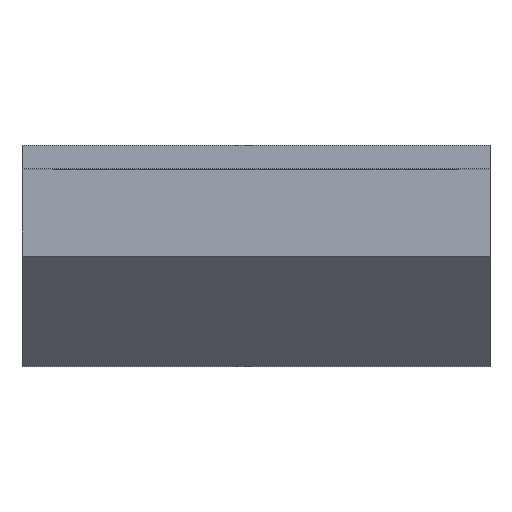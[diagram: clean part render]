
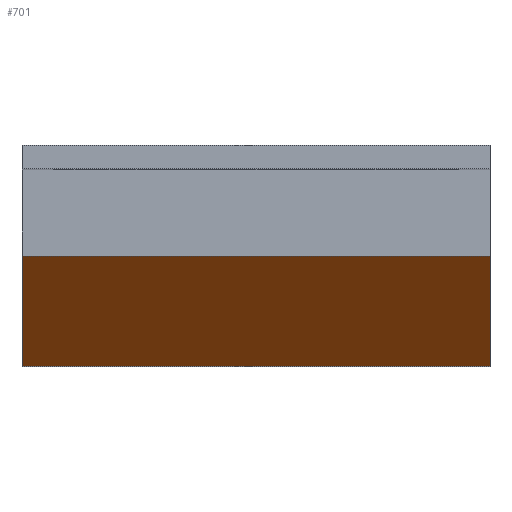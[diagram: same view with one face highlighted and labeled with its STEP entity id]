
A CAD part, top view. The second image highlights one B-rep face of the part: STEP entity #701.
In plain terms, the highlighted planar face has unit normal (0, -0.707, 0.707).
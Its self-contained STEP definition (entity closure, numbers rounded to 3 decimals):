
#484 = VERTEX_POINT('',#485);
#485 = CARTESIAN_POINT('',(0.,0.,5.35)
  );
#492 = PLANE('',#493);
#493 = AXIS2_PLACEMENT_3D('',#494,#495,#496);
#494 = CARTESIAN_POINT('',(0.,0.,0.));
#495 = DIRECTION('',(1.,0.,0.));
#496 = DIRECTION('',(0.,0.,1.));
#504 = PLANE('',#505);
#505 = AXIS2_PLACEMENT_3D('',#506,#507,#508);
#506 = CARTESIAN_POINT('',(0.,0.,0.));
#507 = DIRECTION('',(0.,1.,0.));
#508 = DIRECTION('',(0.,0.,1.));
#573 = VERTEX_POINT('',#574);
#574 = CARTESIAN_POINT('',(0.,2.35,7.7));
#588 = PLANE('',#589);
#589 = AXIS2_PLACEMENT_3D('',#590,#591,#592);
#590 = CARTESIAN_POINT('',(0.,0.,7.7));
#591 = DIRECTION('',(0.,0.,1.));
#592 = DIRECTION('',(1.,0.,0.));
#600 = EDGE_CURVE('',#484,#573,#601,.T.);
#601 = SURFACE_CURVE('',#602,(#606,#613),.PCURVE_S1.);
#602 = LINE('',#603,#604);
#603 = CARTESIAN_POINT('',(0.,-0.75,4.6));
#604 = VECTOR('',#605,1.);
#605 = DIRECTION('',(-0.,0.707,0.707));
#606 = PCURVE('',#492,#607);
#607 = DEFINITIONAL_REPRESENTATION('',(#608),#612);
#608 = LINE('',#609,#610);
#609 = CARTESIAN_POINT('',(4.6,0.75));
#610 = VECTOR('',#611,1.);
#611 = DIRECTION('',(0.707,-0.707));
#612 = ( GEOMETRIC_REPRESENTATION_CONTEXT(2) 
PARAMETRIC_REPRESENTATION_CONTEXT() REPRESENTATION_CONTEXT('2D SPACE',''
  ) );
#613 = PCURVE('',#614,#619);
#614 = PLANE('',#615);
#615 = AXIS2_PLACEMENT_3D('',#616,#617,#618);
#616 = CARTESIAN_POINT('',(0.,1.175,6.525));
#617 = DIRECTION('',(0.,0.707,-0.707)
  );
#618 = DIRECTION('',(-1.,0.,0.));
#619 = DEFINITIONAL_REPRESENTATION('',(#620),#624);
#620 = LINE('',#621,#622);
#621 = CARTESIAN_POINT('',(0.,-2.722));
#622 = VECTOR('',#623,1.);
#623 = DIRECTION('',(-0.,1.));
#624 = ( GEOMETRIC_REPRESENTATION_CONTEXT(2) 
PARAMETRIC_REPRESENTATION_CONTEXT() REPRESENTATION_CONTEXT('2D SPACE',''
  ) );
#632 = VERTEX_POINT('',#633);
#633 = CARTESIAN_POINT('',(10.,0.,5.35));
#647 = PLANE('',#648);
#648 = AXIS2_PLACEMENT_3D('',#649,#650,#651);
#649 = CARTESIAN_POINT('',(10.,0.,0.));
#650 = DIRECTION('',(1.,0.,0.));
#651 = DIRECTION('',(0.,0.,1.));
#681 = EDGE_CURVE('',#484,#632,#682,.T.);
#682 = SURFACE_CURVE('',#683,(#687,#694),.PCURVE_S1.);
#683 = LINE('',#684,#685);
#684 = CARTESIAN_POINT('',(0.,0.,5.35));
#685 = VECTOR('',#686,1.);
#686 = DIRECTION('',(1.,0.,0.));
#687 = PCURVE('',#504,#688);
#688 = DEFINITIONAL_REPRESENTATION('',(#689),#693);
#689 = LINE('',#690,#691);
#690 = CARTESIAN_POINT('',(5.35,0.));
#691 = VECTOR('',#692,1.);
#692 = DIRECTION('',(0.,1.));
#693 = ( GEOMETRIC_REPRESENTATION_CONTEXT(2) 
PARAMETRIC_REPRESENTATION_CONTEXT() REPRESENTATION_CONTEXT('2D SPACE',''
  ) );
#694 = PCURVE('',#614,#695);
#695 = DEFINITIONAL_REPRESENTATION('',(#696),#700);
#696 = LINE('',#697,#698);
#697 = CARTESIAN_POINT('',(0.,-1.662));
#698 = VECTOR('',#699,1.);
#699 = DIRECTION('',(-1.,0.));
#700 = ( GEOMETRIC_REPRESENTATION_CONTEXT(2) 
PARAMETRIC_REPRESENTATION_CONTEXT() REPRESENTATION_CONTEXT('2D SPACE',''
  ) );
#701 = ADVANCED_FACE('',(#702),#614,.F.);
#702 = FACE_BOUND('',#703,.T.);
#703 = EDGE_LOOP('',(#704,#705,#706,#729));
#704 = ORIENTED_EDGE('',*,*,#600,.F.);
#705 = ORIENTED_EDGE('',*,*,#681,.T.);
#706 = ORIENTED_EDGE('',*,*,#707,.T.);
#707 = EDGE_CURVE('',#632,#708,#710,.T.);
#708 = VERTEX_POINT('',#709);
#709 = CARTESIAN_POINT('',(10.,2.35,7.7));
#710 = SURFACE_CURVE('',#711,(#715,#722),.PCURVE_S1.);
#711 = LINE('',#712,#713);
#712 = CARTESIAN_POINT('',(10.,-0.75,4.6));
#713 = VECTOR('',#714,1.);
#714 = DIRECTION('',(-0.,0.707,0.707));
#715 = PCURVE('',#614,#716);
#716 = DEFINITIONAL_REPRESENTATION('',(#717),#721);
#717 = LINE('',#718,#719);
#718 = CARTESIAN_POINT('',(-10.,-2.722));
#719 = VECTOR('',#720,1.);
#720 = DIRECTION('',(-0.,1.));
#721 = ( GEOMETRIC_REPRESENTATION_CONTEXT(2) 
PARAMETRIC_REPRESENTATION_CONTEXT() REPRESENTATION_CONTEXT('2D SPACE',''
  ) );
#722 = PCURVE('',#647,#723);
#723 = DEFINITIONAL_REPRESENTATION('',(#724),#728);
#724 = LINE('',#725,#726);
#725 = CARTESIAN_POINT('',(4.6,0.75));
#726 = VECTOR('',#727,1.);
#727 = DIRECTION('',(0.707,-0.707));
#728 = ( GEOMETRIC_REPRESENTATION_CONTEXT(2) 
PARAMETRIC_REPRESENTATION_CONTEXT() REPRESENTATION_CONTEXT('2D SPACE',''
  ) );
#729 = ORIENTED_EDGE('',*,*,#730,.F.);
#730 = EDGE_CURVE('',#573,#708,#731,.T.);
#731 = SURFACE_CURVE('',#732,(#736,#743),.PCURVE_S1.);
#732 = LINE('',#733,#734);
#733 = CARTESIAN_POINT('',(0.,2.35,7.7));
#734 = VECTOR('',#735,1.);
#735 = DIRECTION('',(1.,0.,0.));
#736 = PCURVE('',#614,#737);
#737 = DEFINITIONAL_REPRESENTATION('',(#738),#742);
#738 = LINE('',#739,#740);
#739 = CARTESIAN_POINT('',(-0.,1.662));
#740 = VECTOR('',#741,1.);
#741 = DIRECTION('',(-1.,0.));
#742 = ( GEOMETRIC_REPRESENTATION_CONTEXT(2) 
PARAMETRIC_REPRESENTATION_CONTEXT() REPRESENTATION_CONTEXT('2D SPACE',''
  ) );
#743 = PCURVE('',#588,#744);
#744 = DEFINITIONAL_REPRESENTATION('',(#745),#749);
#745 = LINE('',#746,#747);
#746 = CARTESIAN_POINT('',(0.,2.35));
#747 = VECTOR('',#748,1.);
#748 = DIRECTION('',(1.,0.));
#749 = ( GEOMETRIC_REPRESENTATION_CONTEXT(2) 
PARAMETRIC_REPRESENTATION_CONTEXT() REPRESENTATION_CONTEXT('2D SPACE',''
  ) );
